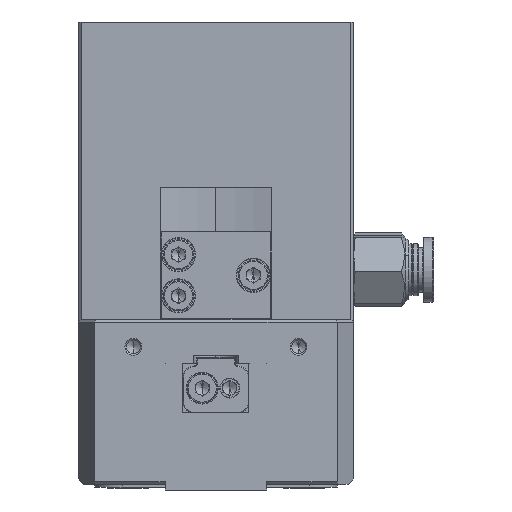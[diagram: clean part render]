
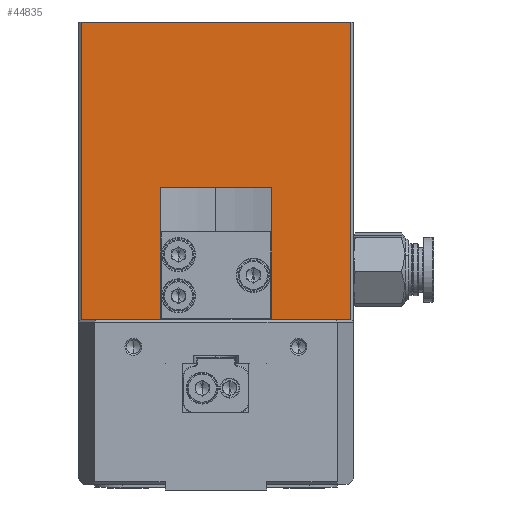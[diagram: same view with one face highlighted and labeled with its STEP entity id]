
A CAD part, left-side view. The second image highlights one B-rep face of the part: STEP entity #44835.
In plain terms, the highlighted planar face has unit normal (-1, 0, 0).
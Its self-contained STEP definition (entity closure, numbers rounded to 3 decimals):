
#99 = LINE ( 'NONE', #39759, #20688 ) ;
#1122 = CARTESIAN_POINT ( 'NONE',  ( -51.647, 34.841, 57. ) ) ;
#1126 = ORIENTED_EDGE ( 'NONE', *, *, #40155, .T. ) ;
#1391 = EDGE_CURVE ( 'NONE', #20434, #2295, #9013, .T. ) ;
#2295 = VERTEX_POINT ( 'NONE', #4158 ) ;
#2415 = CARTESIAN_POINT ( 'NONE',  ( -51.647, 20.241, 3.1 ) ) ;
#2448 = DIRECTION ( 'NONE',  ( 0., 0., -1. ) ) ;
#3010 = LINE ( 'NONE', #4428, #18617 ) ;
#3114 = EDGE_CURVE ( 'NONE', #27344, #10534, #34422, .T. ) ;
#3457 = ORIENTED_EDGE ( 'NONE', *, *, #3114, .T. ) ;
#3507 = PLANE ( 'NONE',  #18288 ) ;
#3541 = CARTESIAN_POINT ( 'NONE',  ( -51.647, -14.159, 57. ) ) ;
#3786 = LINE ( 'NONE', #3541, #40538 ) ;
#4158 = CARTESIAN_POINT ( 'NONE',  ( -51.647, 34.841, 3. ) ) ;
#4271 = EDGE_LOOP ( 'NONE', ( #31314, #33681, #1126, #10441 ) ) ;
#4396 = DIRECTION ( 'NONE',  ( 0., 0., -1. ) ) ;
#4428 = CARTESIAN_POINT ( 'NONE',  ( -51.647, 20.341, 3.1 ) ) ;
#4687 = LINE ( 'NONE', #46067, #45347 ) ;
#4720 = CARTESIAN_POINT ( 'NONE',  ( -51.647, 34.841, 57. ) ) ;
#4726 = DIRECTION ( 'NONE',  ( 0., 1., 0. ) ) ;
#4799 = CARTESIAN_POINT ( 'NONE',  ( -51.647, 20.388, 27. ) ) ;
#5392 = EDGE_CURVE ( 'NONE', #35320, #27344, #3010, .T. ) ;
#7645 = LINE ( 'NONE', #44901, #11516 ) ;
#8445 = EDGE_CURVE ( 'NONE', #9405, #44336, #7645, .T. ) ;
#9013 = LINE ( 'NONE', #4720, #22913 ) ;
#9099 = VECTOR ( 'NONE', #31113, 1000. ) ;
#9405 = VERTEX_POINT ( 'NONE', #36408 ) ;
#9731 = FACE_OUTER_BOUND ( 'NONE', #31255, .T. ) ;
#10441 = ORIENTED_EDGE ( 'NONE', *, *, #21099, .F. ) ;
#10534 = VERTEX_POINT ( 'NONE', #36310 ) ;
#10953 = CARTESIAN_POINT ( 'NONE',  ( -51.647, -14.659, 57. ) ) ;
#11384 = LINE ( 'NONE', #27667, #9099 ) ;
#11516 = VECTOR ( 'NONE', #44595, 1000. ) ;
#12384 = VECTOR ( 'NONE', #2448, 1000. ) ;
#12478 = EDGE_CURVE ( 'NONE', #10534, #27386, #32749, .T. ) ;
#15332 = VERTEX_POINT ( 'NONE', #18388 ) ;
#16564 = CARTESIAN_POINT ( 'NONE',  ( -51.647, 0.441, 18.9 ) ) ;
#16932 = VERTEX_POINT ( 'NONE', #22129 ) ;
#17472 = CARTESIAN_POINT ( 'NONE',  ( -51.647, 0.441, 3.1 ) ) ;
#17800 = DIRECTION ( 'NONE',  ( -1., 0., 0. ) ) ;
#18080 = FACE_BOUND ( 'NONE', #37518, .T. ) ;
#18288 = AXIS2_PLACEMENT_3D ( 'NONE', #10953, #17800, #28360 ) ;
#18388 = CARTESIAN_POINT ( 'NONE',  ( -51.647, -14.159, 3. ) ) ;
#18617 = VECTOR ( 'NONE', #29329, 1000. ) ;
#19709 = ORIENTED_EDGE ( 'NONE', *, *, #1391, .T. ) ;
#20434 = VERTEX_POINT ( 'NONE', #1122 ) ;
#20688 = VECTOR ( 'NONE', #4726, 1000. ) ;
#20703 = CARTESIAN_POINT ( 'NONE',  ( -51.647, 20.241, 19. ) ) ;
#21099 = EDGE_CURVE ( 'NONE', #43464, #39522, #40804, .T. ) ;
#22129 = CARTESIAN_POINT ( 'NONE',  ( -51.647, -14.159, 57. ) ) ;
#22489 = DIRECTION ( 'NONE',  ( 0., 0., 1. ) ) ;
#22913 = VECTOR ( 'NONE', #4396, 1000. ) ;
#23549 = EDGE_CURVE ( 'NONE', #16932, #20434, #4687, .T. ) ;
#23839 = DIRECTION ( 'NONE',  ( 0., 0., -1. ) ) ;
#23885 = EDGE_CURVE ( 'NONE', #44336, #43464, #11384, .T. ) ;
#24607 = ORIENTED_EDGE ( 'NONE', *, *, #34820, .T. ) ;
#24673 = DIRECTION ( 'NONE',  ( 0., 1., 0. ) ) ;
#25311 = ORIENTED_EDGE ( 'NONE', *, *, #23549, .T. ) ;
#25495 = VECTOR ( 'NONE', #32075, 1000. ) ;
#26009 = CARTESIAN_POINT ( 'NONE',  ( -51.647, 0.294, 27. ) ) ;
#26018 = DIRECTION ( 'NONE',  ( 0., -1., 0. ) ) ;
#26262 = LINE ( 'NONE', #29148, #44700 ) ;
#27344 = VERTEX_POINT ( 'NONE', #2415 ) ;
#27386 = VERTEX_POINT ( 'NONE', #16564 ) ;
#27667 = CARTESIAN_POINT ( 'NONE',  ( -51.647, -14.659, 27. ) ) ;
#28222 = VECTOR ( 'NONE', #23839, 1000. ) ;
#28360 = DIRECTION ( 'NONE',  ( 0., 0., 1. ) ) ;
#28716 = CARTESIAN_POINT ( 'NONE',  ( -51.647, 0.341, 18.9 ) ) ;
#29148 = CARTESIAN_POINT ( 'NONE',  ( -51.647, -20.383, 3. ) ) ;
#29329 = DIRECTION ( 'NONE',  ( 0., 1., 0. ) ) ;
#30679 = ORIENTED_EDGE ( 'NONE', *, *, #40077, .T. ) ;
#31056 = VECTOR ( 'NONE', #36649, 1000. ) ;
#31113 = DIRECTION ( 'NONE',  ( 0., 1., 0. ) ) ;
#31255 = EDGE_LOOP ( 'NONE', ( #25311, #19709, #30679, #24607 ) ) ;
#31314 = ORIENTED_EDGE ( 'NONE', *, *, #23885, .F. ) ;
#32075 = DIRECTION ( 'NONE',  ( 0., 0., 1. ) ) ;
#32749 = LINE ( 'NONE', #28716, #31056 ) ;
#33681 = ORIENTED_EDGE ( 'NONE', *, *, #8445, .F. ) ;
#33818 = ORIENTED_EDGE ( 'NONE', *, *, #5392, .T. ) ;
#34176 = CARTESIAN_POINT ( 'NONE',  ( -51.647, 20.388, 19. ) ) ;
#34422 = LINE ( 'NONE', #20703, #25495 ) ;
#34556 = ORIENTED_EDGE ( 'NONE', *, *, #41380, .T. ) ;
#34820 = EDGE_CURVE ( 'NONE', #15332, #16932, #3786, .T. ) ;
#35320 = VERTEX_POINT ( 'NONE', #17472 ) ;
#36310 = CARTESIAN_POINT ( 'NONE',  ( -51.647, 20.241, 18.9 ) ) ;
#36408 = CARTESIAN_POINT ( 'NONE',  ( -51.647, 0.294, 19. ) ) ;
#36649 = DIRECTION ( 'NONE',  ( 0., -1., 0. ) ) ;
#37518 = EDGE_LOOP ( 'NONE', ( #3457, #38084, #34556, #33818 ) ) ;
#38084 = ORIENTED_EDGE ( 'NONE', *, *, #12478, .T. ) ;
#39522 = VERTEX_POINT ( 'NONE', #43723 ) ;
#39759 = CARTESIAN_POINT ( 'NONE',  ( -51.647, -20.383, 19. ) ) ;
#40077 = EDGE_CURVE ( 'NONE', #2295, #15332, #26262, .T. ) ;
#40155 = EDGE_CURVE ( 'NONE', #9405, #39522, #99, .T. ) ;
#40538 = VECTOR ( 'NONE', #22489, 1000. ) ;
#40804 = LINE ( 'NONE', #34176, #12384 ) ;
#41380 = EDGE_CURVE ( 'NONE', #27386, #35320, #42764, .T. ) ;
#41480 = CARTESIAN_POINT ( 'NONE',  ( -51.647, 0.441, 3. ) ) ;
#42037 = FACE_BOUND ( 'NONE', #4271, .T. ) ;
#42764 = LINE ( 'NONE', #41480, #28222 ) ;
#43464 = VERTEX_POINT ( 'NONE', #4799 ) ;
#43723 = CARTESIAN_POINT ( 'NONE',  ( -51.647, 20.388, 19. ) ) ;
#44336 = VERTEX_POINT ( 'NONE', #26009 ) ;
#44595 = DIRECTION ( 'NONE',  ( 0., 0., 1. ) ) ;
#44700 = VECTOR ( 'NONE', #26018, 1000. ) ;
#44835 = ADVANCED_FACE ( 'NONE', ( #42037, #9731, #18080 ), #3507, .T. ) ;
#44901 = CARTESIAN_POINT ( 'NONE',  ( -51.647, 0.294, 19. ) ) ;
#45347 = VECTOR ( 'NONE', #24673, 1000. ) ;
#46067 = CARTESIAN_POINT ( 'NONE',  ( -51.647, -14.659, 57. ) ) ;
